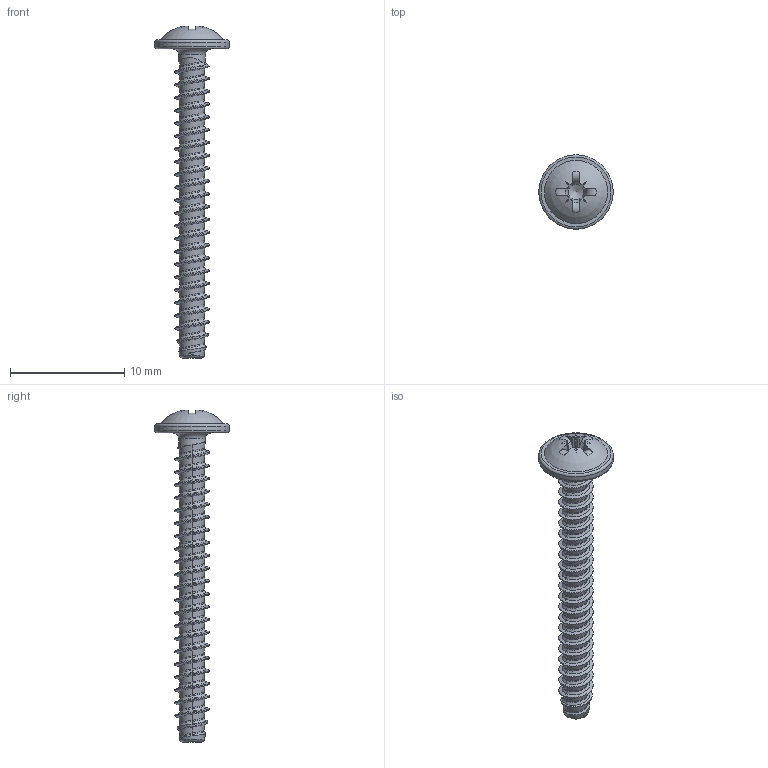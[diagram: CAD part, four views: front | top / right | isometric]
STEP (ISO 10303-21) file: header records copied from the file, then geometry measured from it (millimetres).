
FILE_DESCRIPTION(/* description */ (''),/* implementation_level */ '2;1');
FILE_NAME(/* name */ 'KN6031-STSplus-30x27-Z1.step',/* time_stamp */ '2017-10-09T16:42:55+02:00',/* author */ (''),/* organization */ (''),/* preprocessor_version */ 'ST-DEVELOPER v16',/* originating_system */ 'SIEMENS PLM Software NX 10.0',/* authorisation */ '');
FILE_SCHEMA (('AUTOMOTIVE_DESIGN { 1 0 10303 214 3 1 1 1 }'));
Length unit declared in the file: millimetre
Products named in the file (1): KN6031-STSplus-30x27-Z1
Bounding box: 6.5 x 6.5 x 29.01 mm (x, y, z)
Volume: 155.7 mm3; surface area: 386.3 mm2
Topology: 1 solids, 1 shells, 173 faces, 413 edges, 243 vertices
Faces by surface type: bspline 119, plane 27, cylinder 11, torus 8, cone 7, sphere 1
Full cylindrical faces by diameter (mm): 2.35 x1, 6.5 x1
Entity records: 11539 total; most frequent: CARTESIAN_POINT 8362, ORIENTED_EDGE 798, EDGE_CURVE 399, DIRECTION 353, VERTEX_POINT 238, B_SPLINE_CURVE_WITH_KNOTS 204, EDGE_LOOP 182, ADVANCED_FACE 173
